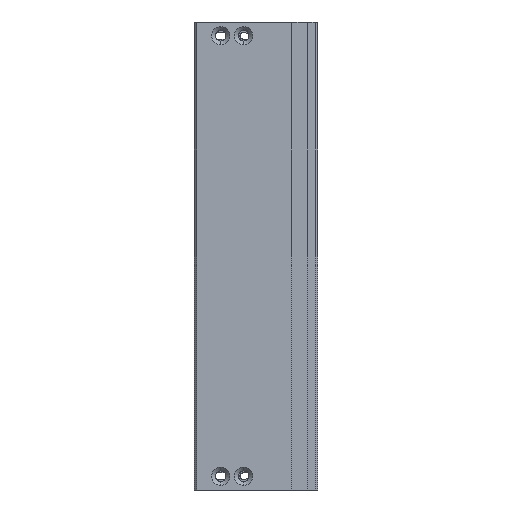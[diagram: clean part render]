
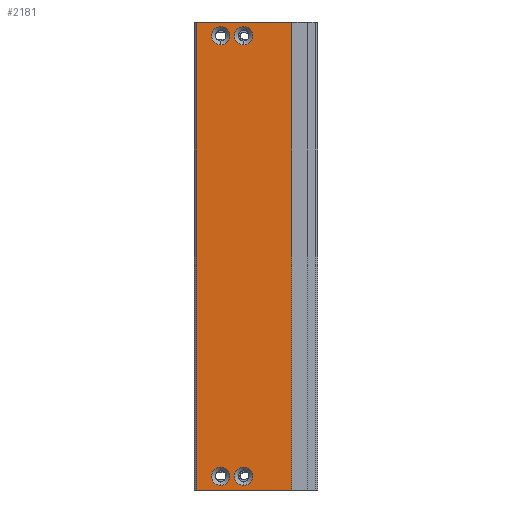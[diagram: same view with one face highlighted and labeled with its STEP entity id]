
A CAD part, left-side view. The second image highlights one B-rep face of the part: STEP entity #2181.
In plain terms, the highlighted planar face has unit normal (-1, 0, 0).
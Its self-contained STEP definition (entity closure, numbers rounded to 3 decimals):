
#111 = CARTESIAN_POINT ( 'NONE',  ( -9., 6.2, -48. ) ) ;
#534 = ORIENTED_EDGE ( 'NONE', *, *, #8479, .F. ) ;
#679 = EDGE_CURVE ( 'NONE', #3771, #7359, #15362, .T. ) ;
#906 = DIRECTION ( 'NONE',  ( 0., 0., 1. ) ) ;
#1041 = VERTEX_POINT ( 'NONE', #5348 ) ;
#1258 = ORIENTED_EDGE ( 'NONE', *, *, #8736, .F. ) ;
#1292 = DIRECTION ( 'NONE',  ( 0., 0., 1. ) ) ;
#1450 = AXIS2_PLACEMENT_3D ( 'NONE', #13965, #5505, #6567 ) ;
#1755 = VERTEX_POINT ( 'NONE', #7430 ) ;
#1758 = EDGE_CURVE ( 'NONE', #15309, #12662, #8198, .T. ) ;
#1944 = CARTESIAN_POINT ( 'NONE',  ( -9., 11.2, 50. ) ) ;
#1976 = VERTEX_POINT ( 'NONE', #2167 ) ;
#2024 = VECTOR ( 'NONE', #13901, 1000. ) ;
#2150 = VECTOR ( 'NONE', #4290, 1000. ) ;
#2167 = CARTESIAN_POINT ( 'NONE',  ( -9., 6.2, -46. ) ) ;
#2169 = VECTOR ( 'NONE', #2268, 1000. ) ;
#2181 = ADVANCED_FACE ( 'NONE', ( #9502, #9886, #12339, #6278, #14673 ), #2681, .F. ) ;
#2268 = DIRECTION ( 'NONE',  ( 0., -1., 0. ) ) ;
#2542 = DIRECTION ( 'NONE',  ( -1., 0., 0. ) ) ;
#2633 = DIRECTION ( 'NONE',  ( 1., 0., 0. ) ) ;
#2646 = AXIS2_PLACEMENT_3D ( 'NONE', #111, #8591, #3671 ) ;
#2681 = PLANE ( 'NONE',  #5852 ) ;
#2907 = EDGE_CURVE ( 'NONE', #12662, #15309, #13868, .T. ) ;
#2932 = VECTOR ( 'NONE', #12580, 1000. ) ;
#3212 = ORIENTED_EDGE ( 'NONE', *, *, #9821, .T. ) ;
#3671 = DIRECTION ( 'NONE',  ( 0., 0., 1. ) ) ;
#3758 = CIRCLE ( 'NONE', #7022, 2. ) ;
#3771 = VERTEX_POINT ( 'NONE', #4931 ) ;
#3852 = VERTEX_POINT ( 'NONE', #11221 ) ;
#4126 = EDGE_CURVE ( 'NONE', #15004, #3771, #15572, .T. ) ;
#4290 = DIRECTION ( 'NONE',  ( 0., 0., -1. ) ) ;
#4428 = ORIENTED_EDGE ( 'NONE', *, *, #4126, .F. ) ;
#4689 = VERTEX_POINT ( 'NONE', #13352 ) ;
#4734 = CIRCLE ( 'NONE', #1450, 2. ) ;
#4931 = CARTESIAN_POINT ( 'NONE',  ( -9., -4.3, 51. ) ) ;
#5261 = CARTESIAN_POINT ( 'NONE',  ( -9., 11.2, -48. ) ) ;
#5348 = CARTESIAN_POINT ( 'NONE',  ( -9., 6.2, -50. ) ) ;
#5407 = DIRECTION ( 'NONE',  ( -1., 0., 0. ) ) ;
#5480 = LINE ( 'NONE', #10197, #2024 ) ;
#5505 = DIRECTION ( 'NONE',  ( -1., 0., 0. ) ) ;
#5703 = CIRCLE ( 'NONE', #7510, 2. ) ;
#5704 = CARTESIAN_POINT ( 'NONE',  ( -9., 6.2, 46. ) ) ;
#5852 = AXIS2_PLACEMENT_3D ( 'NONE', #12496, #2633, #10071 ) ;
#6003 = EDGE_CURVE ( 'NONE', #11200, #10357, #13326, .T. ) ;
#6034 = DIRECTION ( 'NONE',  ( 0., 0., 1. ) ) ;
#6085 = EDGE_CURVE ( 'NONE', #1041, #1976, #5703, .T. ) ;
#6278 = FACE_BOUND ( 'NONE', #12788, .T. ) ;
#6401 = EDGE_LOOP ( 'NONE', ( #3212, #9848, #4428, #8486 ) ) ;
#6567 = DIRECTION ( 'NONE',  ( 0., 0., 1. ) ) ;
#6740 = EDGE_LOOP ( 'NONE', ( #534, #8455 ) ) ;
#6764 = EDGE_CURVE ( 'NONE', #1755, #4689, #3758, .T. ) ;
#6992 = ORIENTED_EDGE ( 'NONE', *, *, #2907, .F. ) ;
#6999 = DIRECTION ( 'NONE',  ( -1., 0., 0. ) ) ;
#7022 = AXIS2_PLACEMENT_3D ( 'NONE', #5261, #7672, #10157 ) ;
#7042 = CARTESIAN_POINT ( 'NONE',  ( -9., 16.44, 51. ) ) ;
#7135 = CARTESIAN_POINT ( 'NONE',  ( -9., -4.3, -51. ) ) ;
#7204 = CIRCLE ( 'NONE', #12362, 2. ) ;
#7209 = DIRECTION ( 'NONE',  ( -1., 0., 0. ) ) ;
#7359 = VERTEX_POINT ( 'NONE', #7135 ) ;
#7366 = DIRECTION ( 'NONE',  ( -1., 0., 0. ) ) ;
#7430 = CARTESIAN_POINT ( 'NONE',  ( -9., 11.2, -50. ) ) ;
#7510 = AXIS2_PLACEMENT_3D ( 'NONE', #11979, #7209, #6034 ) ;
#7588 = CARTESIAN_POINT ( 'NONE',  ( -9., 11.2, 48. ) ) ;
#7619 = AXIS2_PLACEMENT_3D ( 'NONE', #11828, #6999, #906 ) ;
#7672 = DIRECTION ( 'NONE',  ( -1., 0., 0. ) ) ;
#7767 = ORIENTED_EDGE ( 'NONE', *, *, #1758, .F. ) ;
#8076 = CARTESIAN_POINT ( 'NONE',  ( -9., 6.2, 50. ) ) ;
#8198 = CIRCLE ( 'NONE', #11318, 2. ) ;
#8455 = ORIENTED_EDGE ( 'NONE', *, *, #6085, .F. ) ;
#8479 = EDGE_CURVE ( 'NONE', #1976, #1041, #9490, .T. ) ;
#8486 = ORIENTED_EDGE ( 'NONE', *, *, #10645, .T. ) ;
#8591 = DIRECTION ( 'NONE',  ( -1., 0., 0. ) ) ;
#8736 = EDGE_CURVE ( 'NONE', #10357, #11200, #7204, .T. ) ;
#8908 = EDGE_CURVE ( 'NONE', #4689, #1755, #4734, .T. ) ;
#9321 = AXIS2_PLACEMENT_3D ( 'NONE', #15352, #5407, #15301 ) ;
#9439 = LINE ( 'NONE', #11407, #2932 ) ;
#9490 = CIRCLE ( 'NONE', #2646, 2. ) ;
#9502 = FACE_BOUND ( 'NONE', #10962, .T. ) ;
#9821 = EDGE_CURVE ( 'NONE', #3852, #7359, #5480, .T. ) ;
#9848 = ORIENTED_EDGE ( 'NONE', *, *, #679, .F. ) ;
#9886 = FACE_BOUND ( 'NONE', #6740, .T. ) ;
#9890 = CARTESIAN_POINT ( 'NONE',  ( -9., 11.2, 46. ) ) ;
#10071 = DIRECTION ( 'NONE',  ( 0., 0., -1. ) ) ;
#10157 = DIRECTION ( 'NONE',  ( 0., 0., 1. ) ) ;
#10197 = CARTESIAN_POINT ( 'NONE',  ( -9., 16.44, -51. ) ) ;
#10357 = VERTEX_POINT ( 'NONE', #5704 ) ;
#10645 = EDGE_CURVE ( 'NONE', #15004, #3852, #9439, .T. ) ;
#10962 = EDGE_LOOP ( 'NONE', ( #13539, #13880 ) ) ;
#11200 = VERTEX_POINT ( 'NONE', #8076 ) ;
#11221 = CARTESIAN_POINT ( 'NONE',  ( -9., 16.44, -51. ) ) ;
#11318 = AXIS2_PLACEMENT_3D ( 'NONE', #7588, #2542, #1292 ) ;
#11407 = CARTESIAN_POINT ( 'NONE',  ( -9., 16.44, 51. ) ) ;
#11642 = CARTESIAN_POINT ( 'NONE',  ( -9., -4.3, 51. ) ) ;
#11828 = CARTESIAN_POINT ( 'NONE',  ( -9., 6.2, 48. ) ) ;
#11979 = CARTESIAN_POINT ( 'NONE',  ( -9., 6.2, -48. ) ) ;
#12164 = ORIENTED_EDGE ( 'NONE', *, *, #6003, .F. ) ;
#12302 = CARTESIAN_POINT ( 'NONE',  ( -9., 6.2, 48. ) ) ;
#12339 = FACE_BOUND ( 'NONE', #12801, .T. ) ;
#12362 = AXIS2_PLACEMENT_3D ( 'NONE', #12302, #7366, #14570 ) ;
#12496 = CARTESIAN_POINT ( 'NONE',  ( -9., 16.44, 51. ) ) ;
#12580 = DIRECTION ( 'NONE',  ( 0., 0., -1. ) ) ;
#12662 = VERTEX_POINT ( 'NONE', #9890 ) ;
#12788 = EDGE_LOOP ( 'NONE', ( #12164, #1258 ) ) ;
#12801 = EDGE_LOOP ( 'NONE', ( #7767, #6992 ) ) ;
#13326 = CIRCLE ( 'NONE', #7619, 2. ) ;
#13352 = CARTESIAN_POINT ( 'NONE',  ( -9., 11.2, -46. ) ) ;
#13539 = ORIENTED_EDGE ( 'NONE', *, *, #8908, .F. ) ;
#13868 = CIRCLE ( 'NONE', #9321, 2. ) ;
#13880 = ORIENTED_EDGE ( 'NONE', *, *, #6764, .F. ) ;
#13901 = DIRECTION ( 'NONE',  ( 0., -1., 0. ) ) ;
#13965 = CARTESIAN_POINT ( 'NONE',  ( -9., 11.2, -48. ) ) ;
#14570 = DIRECTION ( 'NONE',  ( 0., 0., 1. ) ) ;
#14656 = CARTESIAN_POINT ( 'NONE',  ( -9., 16.44, 51. ) ) ;
#14673 = FACE_OUTER_BOUND ( 'NONE', #6401, .T. ) ;
#15004 = VERTEX_POINT ( 'NONE', #7042 ) ;
#15301 = DIRECTION ( 'NONE',  ( 0., 0., 1. ) ) ;
#15309 = VERTEX_POINT ( 'NONE', #1944 ) ;
#15352 = CARTESIAN_POINT ( 'NONE',  ( -9., 11.2, 48. ) ) ;
#15362 = LINE ( 'NONE', #11642, #2150 ) ;
#15572 = LINE ( 'NONE', #14656, #2169 ) ;
